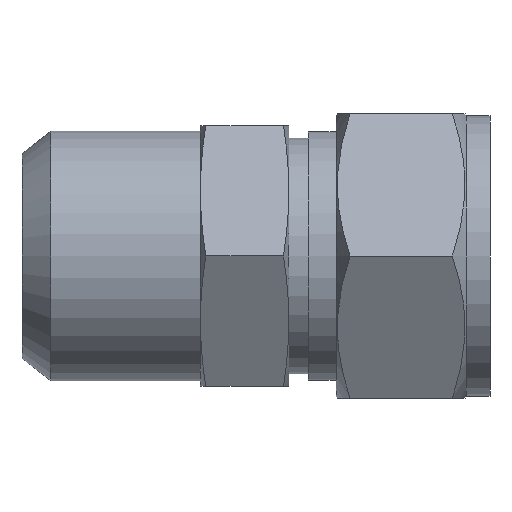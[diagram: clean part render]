
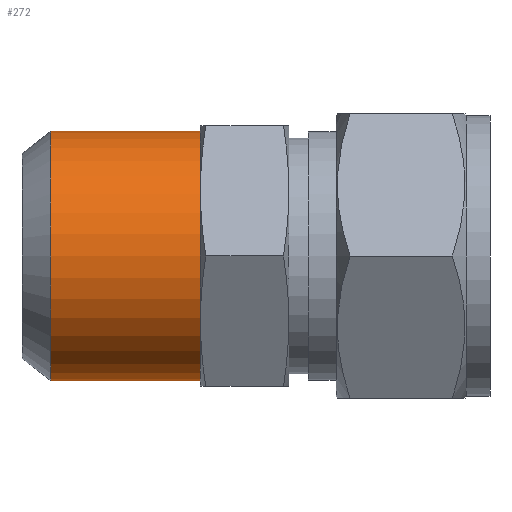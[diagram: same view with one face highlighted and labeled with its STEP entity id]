
A CAD part, front view. The second image highlights one B-rep face of the part: STEP entity #272.
In plain terms, the highlighted cylindrical face has radius 16.7 mm (diameter 33.4 mm), a partial arc.
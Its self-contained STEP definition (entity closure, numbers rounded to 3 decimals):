
#255 = EDGE_CURVE ( 'NONE', #398, #395, #854, .T. ) ;
#272 = ADVANCED_FACE ( 'NONE', ( #904 ), #900, .T. ) ;
#273 = EDGE_LOOP ( 'NONE', ( #274, #275, #276, #277 ) ) ;
#274 = ORIENTED_EDGE ( 'NONE', *, *, #394, .F. ) ;
#275 = ORIENTED_EDGE ( 'NONE', *, *, #384, .F. ) ;
#276 = ORIENTED_EDGE ( 'NONE', *, *, #400, .T. ) ;
#277 = ORIENTED_EDGE ( 'NONE', *, *, #255, .T. ) ;
#376 = VERTEX_POINT ( 'NONE', #1091 ) ;
#384 = EDGE_CURVE ( 'NONE', #392, #376, #1138, .T. ) ;
#392 = VERTEX_POINT ( 'NONE', #1118 ) ;
#394 = EDGE_CURVE ( 'NONE', #376, #395, #1116, .T. ) ;
#395 = VERTEX_POINT ( 'NONE', #1173 ) ;
#398 = VERTEX_POINT ( 'NONE', #1167 ) ;
#400 = EDGE_CURVE ( 'NONE', #392, #398, #1166, .T. ) ;
#850 = DIRECTION ( 'NONE',  ( 0., 0., -1. ) ) ;
#851 = DIRECTION ( 'NONE',  ( -1., 0., 0. ) ) ;
#852 = CARTESIAN_POINT ( 'NONE',  ( 0., 0., 0. ) ) ;
#853 = AXIS2_PLACEMENT_3D ( 'NONE', #852, #851, #850 ) ;
#854 = CIRCLE ( 'NONE', #853, 16.7 ) ;
#896 = DIRECTION ( 'NONE',  ( 0., 0., -1. ) ) ;
#897 = DIRECTION ( 'NONE',  ( 1., 0., 0. ) ) ;
#898 = CARTESIAN_POINT ( 'NONE',  ( -23.9, 0., 0. ) ) ;
#899 = AXIS2_PLACEMENT_3D ( 'NONE', #898, #897, #896 ) ;
#900 = CYLINDRICAL_SURFACE ( 'NONE', #899, 16.7 ) ;
#904 = FACE_OUTER_BOUND ( 'NONE', #273, .T. ) ;
#1091 = CARTESIAN_POINT ( 'NONE',  ( -20.055, 0., 16.7 ) ) ;
#1113 = DIRECTION ( 'NONE',  ( 1., 0., 0. ) ) ;
#1114 = VECTOR ( 'NONE', #1113, 1000. ) ;
#1115 = CARTESIAN_POINT ( 'NONE',  ( -23.9, 0., 16.7 ) ) ;
#1116 = LINE ( 'NONE', #1115, #1114 ) ;
#1118 = CARTESIAN_POINT ( 'NONE',  ( -20.055, 0., -16.7 ) ) ;
#1134 = DIRECTION ( 'NONE',  ( 0., 0., -1. ) ) ;
#1135 = DIRECTION ( 'NONE',  ( -1., 0., 0. ) ) ;
#1136 = CARTESIAN_POINT ( 'NONE',  ( -20.055, 0., 0. ) ) ;
#1137 = AXIS2_PLACEMENT_3D ( 'NONE', #1136, #1135, #1134 ) ;
#1138 = CIRCLE ( 'NONE', #1137, 16.7 ) ;
#1163 = DIRECTION ( 'NONE',  ( 1., 0., 0. ) ) ;
#1164 = VECTOR ( 'NONE', #1163, 1000. ) ;
#1165 = CARTESIAN_POINT ( 'NONE',  ( -23.9, 0., -16.7 ) ) ;
#1166 = LINE ( 'NONE', #1165, #1164 ) ;
#1167 = CARTESIAN_POINT ( 'NONE',  ( 0., 0., -16.7 ) ) ;
#1173 = CARTESIAN_POINT ( 'NONE',  ( 0., 0., 16.7 ) ) ;
